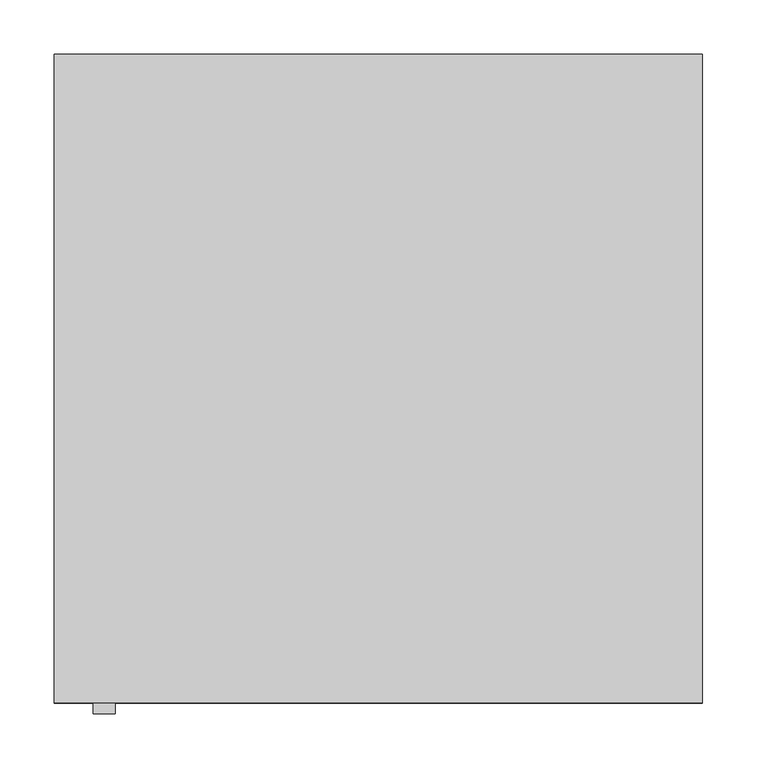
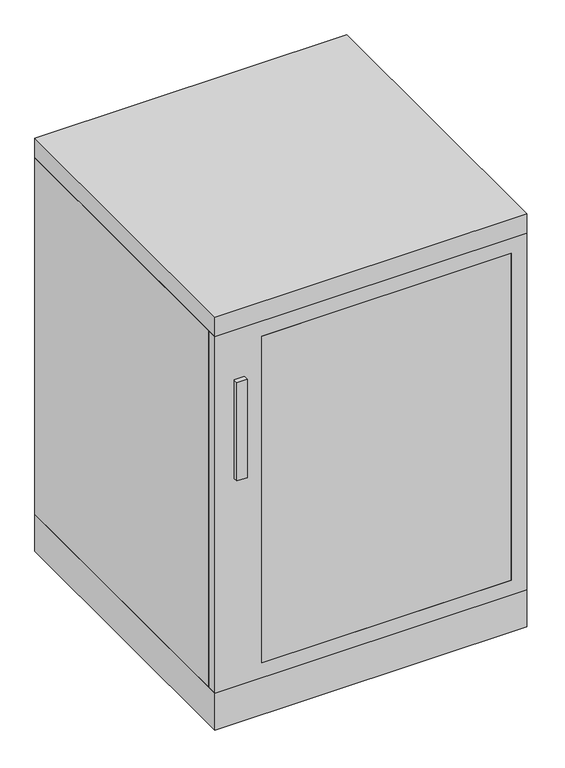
"""IFC4 building model written with IfcOpenShell, lengths in millimetres: proxy geometry, BIMHealth-Fridge_Drugs-LOD2A-v1 : BIMHealth-Fridge_Drugs-LOD2A-v1."""

from ifc_helpers import new_model, si_unit, frame, origin, origin_with_axes, place, context, project, spatial, polyline, outline, extrude, faceted_brep, source, transform, mapped, element, save


def generic_models_4aaa6221(model_context):
    return source(origin(), model_context, "Body", "SolidModel", [
        extrude(outline(polyline([(800.0, 600.0), (800.0, 0.0), (75.0, 0.0), (75.0, 600.0), (800.0, 600.0)]), holes=[polyline([(770.0, 570.0), (105.0, 570.0), (105.0, 90.0), (770.0, 90.0), (770.0, 570.0)])]), frame((0.0, -600.0, 0.0), z_axis=(0.0, 1.0, 0.0), x_axis=(0.0, 0.0, 1.0)), (0.0, 0.0, 1.0), 20.0),
        extrude(outline(polyline([(570.0, -33.3322993), (570.0, -580.0), (90.0, -580.0), (90.0, -33.3322993), (570.0, -33.3322993)])), frame((0.0, 0.0, 615.0), z_axis=(0.0, 0.0, 1.0), x_axis=(1.0, 0.0, 0.0)), (0.0, 0.0, 1.0), 20.0),
        extrude(outline(polyline([(570.0, -33.3322993), (570.0, -580.0), (90.0, -580.0), (90.0, -33.3322993), (570.0, -33.3322993)])), frame((0.0, 0.0, 445.0), z_axis=(0.0, 0.0, 1.0), x_axis=(1.0, 0.0, 0.0)), (0.0, 0.0, 1.0), 20.0),
        extrude(outline(polyline([(570.0, -33.3322993), (570.0, -580.0), (90.0, -580.0), (90.0, -33.3322993), (570.0, -33.3322993)])), frame((0.0, 0.0, 275.0), z_axis=(0.0, 0.0, 1.0), x_axis=(1.0, 0.0, 0.0)), (0.0, 0.0, 1.0), 20.0),
        extrude(outline(polyline([(570.0, -600.0), (90.0, -600.0), (90.0, -580.0), (570.0, -580.0), (570.0, -600.0)])), frame((0.0, 0.0, 105.0), z_axis=(0.0, 0.0, 1.0), x_axis=(1.0, 0.0, 0.0)), (0.0, 0.0, 1.0), 665.0),
        faceted_brep([(600.0, -580.0, 800.0), (0.0, -580.0, 800.0), (0.0, -580.0, 75.0), (600.0, -580.0, 75.0), (90.0, -580.0, 770.0), (570.0, -580.0, 770.0), (570.0, -580.0, 105.0), (90.0, -580.0, 105.0), (600.0, 0.0, 800.0), (600.0, 0.0, 75.0), (0.0, 0.0, 75.0), (0.0, 0.0, 800.0), (570.0, -33.3322993, 770.0), (90.0, -33.3322993, 770.0), (90.0, -33.3322993, 105.0), (570.0, -33.3322993, 105.0)], [[[0, 1, 2, 3], [4, 5, 6, 7]], [[8, 9, 10, 11]], [[1, 0, 8, 11]], [[2, 1, 11, 10]], [[3, 2, 10, 9]], [[0, 3, 9, 8]], [[12, 13, 14, 15]], [[13, 12, 5, 4]], [[14, 13, 4, 7]], [[15, 14, 7, 6]], [[12, 15, 6, 5]]]),
        extrude(outline(polyline([(56.3708599, -610.0), (36.3708599, -610.0), (36.3708599, -600.0), (56.3708599, -600.0), (56.3708599, -610.0)])), frame((0.0, 0.0, 500.0), z_axis=(0.0, 0.0, 1.0), x_axis=(1.0, 0.0, 0.0)), (0.0, 0.0, 1.0), 200.0),
        extrude(outline(polyline([(600.0, 0.0), (600.0, -600.0), (0.0, -600.0), (0.0, 0.0), (600.0, 0.0)])), frame((0.0, 0.0, 800.0), z_axis=(0.0, 0.0, 1.0), x_axis=(1.0, 0.0, 0.0)), (0.0, 0.0, 1.0), 40.0),
        extrude(outline(polyline([(600.0, 0.0), (600.0, -600.0), (0.0, -600.0), (0.0, 0.0), (600.0, 0.0)])), origin_with_axes(), (0.0, 0.0, 1.0), 75.0),
    ])


if __name__ == "__main__":
    model = new_model("IFC4")
    model_context = context("Model", 3, world=origin())
    ifc_project = project(units=[si_unit("LENGTHUNIT", "METRE", prefix="MILLI")], contexts=[model_context])
    site = spatial("IfcSite", under=ifc_project)
    building = spatial("IfcBuilding", under=site)
    placement = place(None, origin())
    generic_models_shape = generic_models_4aaa6221(model_context)
    element("IfcBuildingElementProxy", 1, Name="BIMHealth-Fridge_Drugs-LOD2A-v1 : BIMHealth-Fridge_Drugs-LOD2A-v1", ObjectType="BIMHealth-Fridge_Drugs-LOD2A-v1 : BIMHealth-Fridge_Drugs-LOD2A-v1", at=placement, inside=building, context=model_context, shape_type="MappedRepresentation", body=[
        mapped(generic_models_shape, transform((0.0, 0.0, 0.0), x_axis=(1.0, 0.0, 0.0), y_axis=(0.0, 1.0, 0.0), z_axis=(0.0, 0.0, 1.0))),
    ])
    save(model, "model.ifc")
